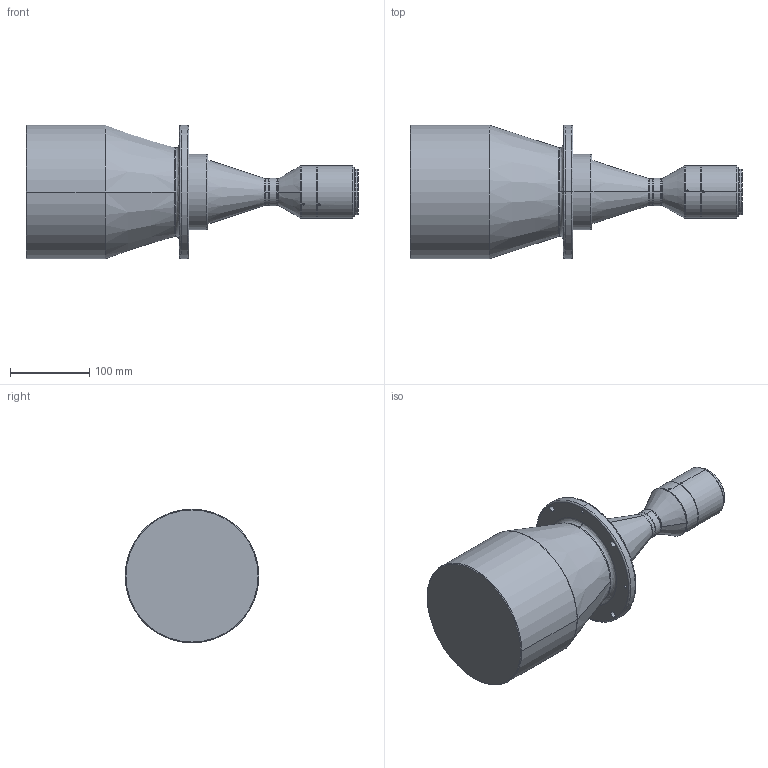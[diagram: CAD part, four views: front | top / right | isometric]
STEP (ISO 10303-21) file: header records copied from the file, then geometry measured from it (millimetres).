
FILE_DESCRIPTION (( 'STEP AP203' ), '1' );
FILE_NAME ('DTCM430-136-M58-AL.STEP', '2019-11-14T09:13:10', ( 'Windows 蚚誧' ), ( '' ), 'SwSTEP 2.0', 'SolidWorks 2017', '' );
FILE_SCHEMA (( 'CONFIG_CONTROL_DESIGN' ));
Length unit declared in the file: millimetre
Products named in the file (1): DTCM430-136-M58-AL
Bounding box: 419.6 x 169 x 169 mm (x, y, z)
Volume: 4637526.4 mm3; surface area: 203241 mm2
Topology: 1 solids, 1 shells, 109 faces, 269 edges, 164 vertices
Faces by surface type: cylinder 54, cone 28, bspline 16, plane 11
Entity records: 4130 total; most frequent: CARTESIAN_POINT 1543, DIRECTION 543, ORIENTED_EDGE 514, EDGE_CURVE 257, AXIS2_PLACEMENT_3D 230, VERTEX_POINT 164, EDGE_LOOP 139, CIRCLE 136
